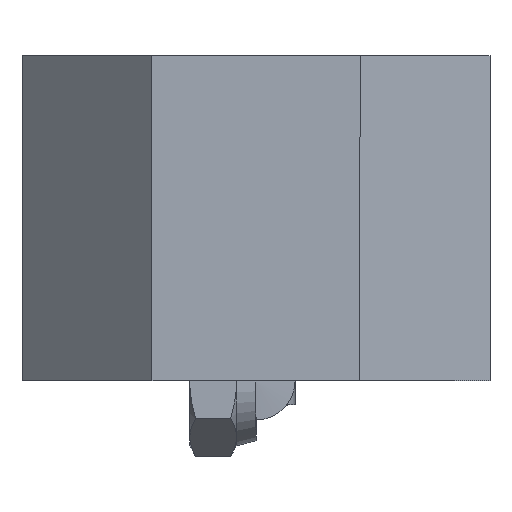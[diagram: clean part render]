
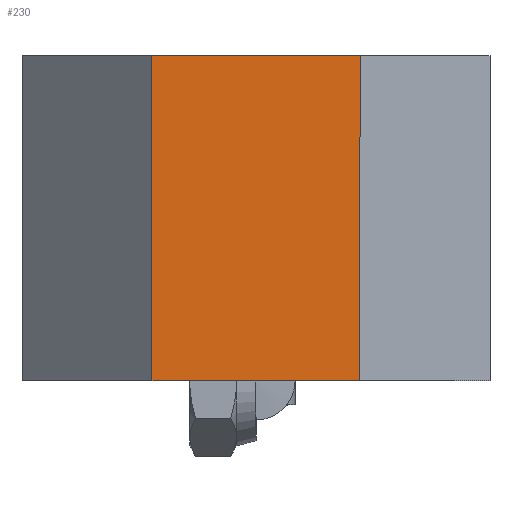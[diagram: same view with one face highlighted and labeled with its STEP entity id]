
A CAD part, left-side view. The second image highlights one B-rep face of the part: STEP entity #230.
In plain terms, the highlighted planar face has unit normal (-1, 0, 0).
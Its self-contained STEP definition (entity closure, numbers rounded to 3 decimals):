
#230 = ADVANCED_FACE( '', ( #301 ), #302, .T. );
#301 = FACE_OUTER_BOUND( '', #442, .T. );
#302 = PLANE( '', #443 );
#442 = EDGE_LOOP( '', ( #628, #629, #630, #631 ) );
#443 = AXIS2_PLACEMENT_3D( '', #632, #633, #634 );
#628 = ORIENTED_EDGE( '', *, *, #1010, .T. );
#629 = ORIENTED_EDGE( '', *, *, #1007, .T. );
#630 = ORIENTED_EDGE( '', *, *, #985, .F. );
#631 = ORIENTED_EDGE( '', *, *, #997, .T. );
#632 = CARTESIAN_POINT( '', ( -18., -18., 0. ) );
#633 = DIRECTION( '', ( -1., 0., 0. ) );
#634 = DIRECTION( '', ( 0., 0., 1. ) );
#985 = EDGE_CURVE( '', #1105, #1106, #1107, .T. );
#997 = EDGE_CURVE( '', #1105, #1127, #1129, .T. );
#1007 = EDGE_CURVE( '', #1145, #1106, #1146, .T. );
#1010 = EDGE_CURVE( '', #1127, #1145, #1150, .T. );
#1105 = VERTEX_POINT( '', #1303 );
#1106 = VERTEX_POINT( '', #1304 );
#1107 = LINE( '', #1305, #1306 );
#1127 = VERTEX_POINT( '', #1334 );
#1129 = LINE( '', #1337, #1338 );
#1145 = VERTEX_POINT( '', #1363 );
#1146 = LINE( '', #1364, #1365 );
#1150 = LINE( '', #1370, #1371 );
#1303 = CARTESIAN_POINT( '', ( -18., -8., 0. ) );
#1304 = CARTESIAN_POINT( '', ( -18., 8., 0. ) );
#1305 = CARTESIAN_POINT( '', ( -18., -18., 0. ) );
#1306 = VECTOR( '', #1681, 1000. );
#1334 = CARTESIAN_POINT( '', ( -18., -8., 25. ) );
#1337 = CARTESIAN_POINT( '', ( -18., -8., 25. ) );
#1338 = VECTOR( '', #1697, 1000. );
#1363 = CARTESIAN_POINT( '', ( -18., 8., 25. ) );
#1364 = CARTESIAN_POINT( '', ( -18., 8., 0. ) );
#1365 = VECTOR( '', #1707, 1000. );
#1370 = CARTESIAN_POINT( '', ( -18., -18., 25. ) );
#1371 = VECTOR( '', #1712, 1000. );
#1681 = DIRECTION( '', ( 0., 1., 0. ) );
#1697 = DIRECTION( '', ( 0., 0., 1. ) );
#1707 = DIRECTION( '', ( 0., 0., -1. ) );
#1712 = DIRECTION( '', ( 0., 1., 0. ) );
